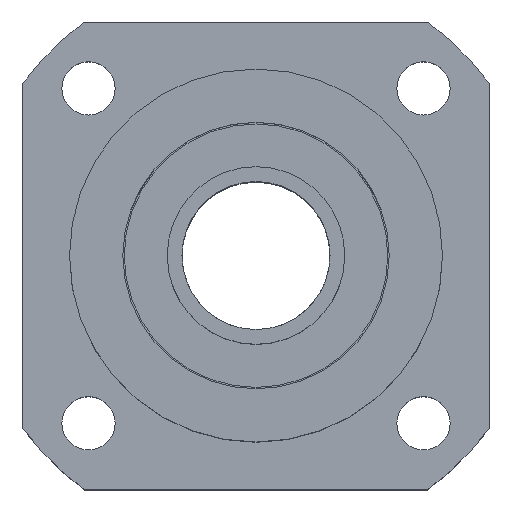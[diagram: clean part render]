
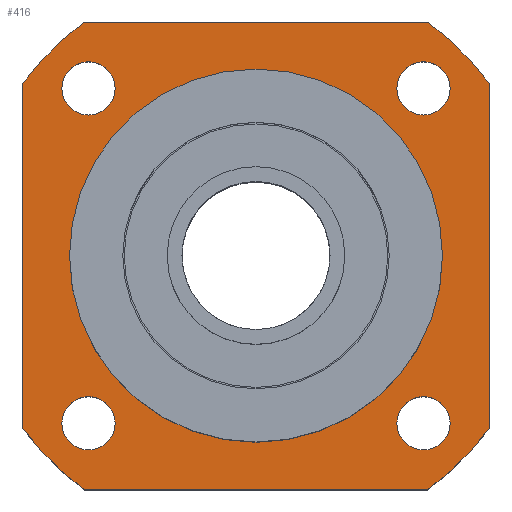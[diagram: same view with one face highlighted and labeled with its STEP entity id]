
A CAD part, top view. The second image highlights one B-rep face of the part: STEP entity #416.
In plain terms, the highlighted planar face has unit normal (0, 0, 1).
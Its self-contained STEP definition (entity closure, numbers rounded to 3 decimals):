
#234=LINE('',#2423,#289);
#238=LINE('',#2433,#293);
#241=LINE('',#2441,#296);
#244=LINE('',#2449,#299);
#289=VECTOR('',#1936,1.);
#293=VECTOR('',#1946,1.);
#296=VECTOR('',#1955,1.);
#299=VECTOR('',#1964,1.);
#353=PLANE('',#1740);
#416=ADVANCED_FACE('',(#585,#586,#587,#588,#589,#590),#353,.T.);
#585=FACE_BOUND('',#753,.T.);
#586=FACE_BOUND('',#754,.T.);
#587=FACE_BOUND('',#755,.T.);
#588=FACE_BOUND('',#756,.T.);
#589=FACE_BOUND('',#757,.T.);
#590=FACE_BOUND('',#758,.T.);
#753=EDGE_LOOP('',(#981,#982,#983,#984,#985,#986,#987,#988));
#754=EDGE_LOOP('',(#989));
#755=EDGE_LOOP('',(#990));
#756=EDGE_LOOP('',(#991));
#757=EDGE_LOOP('',(#992));
#758=EDGE_LOOP('',(#993));
#981=ORIENTED_EDGE('',*,*,#1410,.T.);
#982=ORIENTED_EDGE('',*,*,#1413,.T.);
#983=ORIENTED_EDGE('',*,*,#1415,.T.);
#984=ORIENTED_EDGE('',*,*,#1417,.T.);
#985=ORIENTED_EDGE('',*,*,#1419,.T.);
#986=ORIENTED_EDGE('',*,*,#1421,.T.);
#987=ORIENTED_EDGE('',*,*,#1423,.T.);
#988=ORIENTED_EDGE('',*,*,#1424,.T.);
#989=ORIENTED_EDGE('',*,*,#1439,.F.);
#990=ORIENTED_EDGE('',*,*,#1391,.F.);
#991=ORIENTED_EDGE('',*,*,#1429,.F.);
#992=ORIENTED_EDGE('',*,*,#1430,.F.);
#993=ORIENTED_EDGE('',*,*,#1431,.F.);
#1251=VERTEX_POINT('',#2384);
#1269=VERTEX_POINT('',#2422);
#1270=VERTEX_POINT('',#2424);
#1271=VERTEX_POINT('',#2428);
#1272=VERTEX_POINT('',#2432);
#1273=VERTEX_POINT('',#2436);
#1274=VERTEX_POINT('',#2440);
#1275=VERTEX_POINT('',#2444);
#1276=VERTEX_POINT('',#2448);
#1281=VERTEX_POINT('',#2466);
#1282=VERTEX_POINT('',#2469);
#1283=VERTEX_POINT('',#2472);
#1291=VERTEX_POINT('',#2500);
#1391=EDGE_CURVE('GENERATED CIRCLE',#1251,#1251,#1570,.T.);
#1410=EDGE_CURVE('LINE',#1270,#1269,#234,.T.);
#1413=EDGE_CURVE('GENERATED CIRCLE',#1269,#1271,#1584,.T.);
#1415=EDGE_CURVE('LINE',#1271,#1272,#238,.T.);
#1417=EDGE_CURVE('GENERATED CIRCLE',#1272,#1273,#1585,.T.);
#1419=EDGE_CURVE('LINE',#1273,#1274,#241,.T.);
#1421=EDGE_CURVE('GENERATED CIRCLE',#1274,#1275,#1586,.T.);
#1423=EDGE_CURVE('LINE',#1275,#1276,#244,.T.);
#1424=EDGE_CURVE('GENERATED CIRCLE',#1276,#1270,#1587,.T.);
#1429=EDGE_CURVE('GENERATED CIRCLE',#1281,#1281,#1592,.T.);
#1430=EDGE_CURVE('GENERATED CIRCLE',#1282,#1282,#1593,.T.);
#1431=EDGE_CURVE('GENERATED CIRCLE',#1283,#1283,#1594,.T.);
#1439=EDGE_CURVE('GENERATED CIRCLE',#1291,#1291,#1602,.T.);
#1570=CIRCLE('',#1677,4.5);
#1584=CIRCLE('',#1694,49.);
#1585=CIRCLE('',#1697,49.);
#1586=CIRCLE('',#1700,49.);
#1587=CIRCLE('',#1703,49.);
#1592=CIRCLE('',#1713,4.5);
#1593=CIRCLE('',#1715,4.5);
#1594=CIRCLE('',#1717,4.5);
#1602=CIRCLE('',#1737,30.7);
#1677=AXIS2_PLACEMENT_3D('',#2383,#1899,#1900);
#1694=AXIS2_PLACEMENT_3D('',#2429,#1941,#1942);
#1697=AXIS2_PLACEMENT_3D('',#2437,#1950,#1951);
#1700=AXIS2_PLACEMENT_3D('',#2445,#1959,#1960);
#1703=AXIS2_PLACEMENT_3D('',#2451,#1967,#1968);
#1713=AXIS2_PLACEMENT_3D('',#2465,#1987,#1988);
#1715=AXIS2_PLACEMENT_3D('',#2468,#1991,#1992);
#1717=AXIS2_PLACEMENT_3D('',#2471,#1995,#1996);
#1737=AXIS2_PLACEMENT_3D('',#2499,#2035,#2036);
#1740=AXIS2_PLACEMENT_3D('',#2503,#2041,#2042);
#1899=DIRECTION('',(0.,0.,1.));
#1900=DIRECTION('',(-1.,0.,0.));
#1936=DIRECTION('',(0.,1.,0.));
#1941=DIRECTION('',(0.,0.,1.));
#1942=DIRECTION('',(1.,0.,0.));
#1946=DIRECTION('',(-1.,0.,0.));
#1950=DIRECTION('',(0.,0.,1.));
#1951=DIRECTION('',(1.,0.,0.));
#1955=DIRECTION('',(0.,-1.,0.));
#1959=DIRECTION('',(0.,0.,1.));
#1960=DIRECTION('',(1.,0.,0.));
#1964=DIRECTION('',(1.,0.,0.));
#1967=DIRECTION('',(0.,0.,1.));
#1968=DIRECTION('',(1.,0.,0.));
#1987=DIRECTION('',(0.,0.,1.));
#1988=DIRECTION('',(-1.,0.,0.));
#1991=DIRECTION('',(0.,0.,1.));
#1992=DIRECTION('',(-1.,0.,0.));
#1995=DIRECTION('',(0.,0.,1.));
#1996=DIRECTION('',(-1.,0.,0.));
#2035=DIRECTION('',(0.,0.,1.));
#2036=DIRECTION('',(1.,0.,0.));
#2041=DIRECTION('',(0.,0.,1.));
#2042=DIRECTION('',(-1.,0.,0.));
#2383=CARTESIAN_POINT('',(28.284,-28.284,14.));
#2384=CARTESIAN_POINT('',(23.784,-28.284,14.));
#2422=CARTESIAN_POINT('',(39.5,28.996,14.));
#2423=CARTESIAN_POINT('',(39.5,0.,14.));
#2424=CARTESIAN_POINT('',(39.5,-28.996,14.));
#2428=CARTESIAN_POINT('',(28.996,39.5,14.));
#2429=CARTESIAN_POINT('',(0.,0.,14.));
#2432=CARTESIAN_POINT('',(-28.996,39.5,14.));
#2433=CARTESIAN_POINT('',(0.,39.5,14.));
#2436=CARTESIAN_POINT('',(-39.5,28.996,14.));
#2437=CARTESIAN_POINT('',(0.,0.,14.));
#2440=CARTESIAN_POINT('',(-39.5,-28.996,14.));
#2441=CARTESIAN_POINT('',(-39.5,0.,14.));
#2444=CARTESIAN_POINT('',(-28.996,-39.5,14.));
#2445=CARTESIAN_POINT('',(0.,0.,14.));
#2448=CARTESIAN_POINT('',(28.996,-39.5,14.));
#2449=CARTESIAN_POINT('',(0.,-39.5,14.));
#2451=CARTESIAN_POINT('',(0.,0.,14.));
#2465=CARTESIAN_POINT('',(28.284,28.284,14.));
#2466=CARTESIAN_POINT('',(23.784,28.284,14.));
#2468=CARTESIAN_POINT('',(-28.284,28.284,14.));
#2469=CARTESIAN_POINT('',(-32.784,28.284,14.));
#2471=CARTESIAN_POINT('',(-28.284,-28.284,14.));
#2472=CARTESIAN_POINT('',(-32.784,-28.284,14.));
#2499=CARTESIAN_POINT('',(0.,0.,14.));
#2500=CARTESIAN_POINT('',(30.7,0.,14.));
#2503=CARTESIAN_POINT('',(0.,49.,14.));
